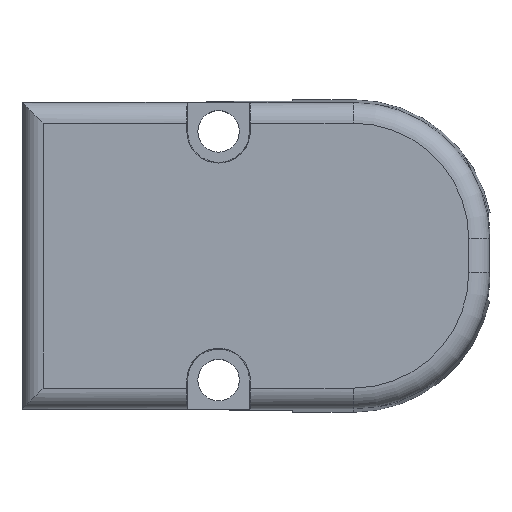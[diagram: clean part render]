
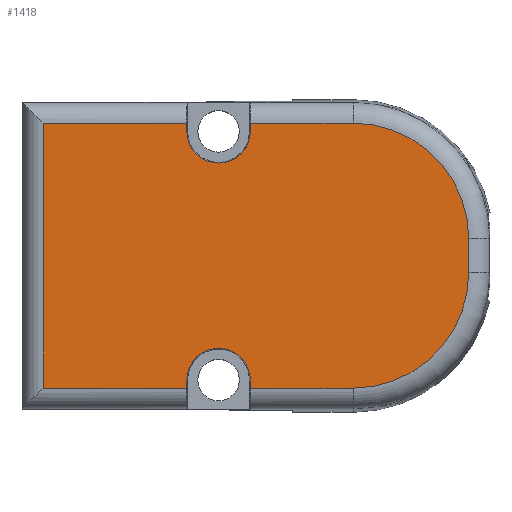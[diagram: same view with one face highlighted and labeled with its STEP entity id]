
A CAD part, top view. The second image highlights one B-rep face of the part: STEP entity #1418.
In plain terms, the highlighted planar face has unit normal (0, 0, 1).
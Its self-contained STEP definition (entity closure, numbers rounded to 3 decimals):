
#115=CIRCLE('',#1546,11.143);
#116=CIRCLE('',#1547,3.063);
#117=CIRCLE('',#1548,3.063);
#118=CIRCLE('',#1549,11.143);
#317=ORIENTED_EDGE('',*,*,#695,.T.);
#318=ORIENTED_EDGE('',*,*,#696,.T.);
#319=ORIENTED_EDGE('',*,*,#697,.T.);
#320=ORIENTED_EDGE('',*,*,#698,.T.);
#321=ORIENTED_EDGE('',*,*,#699,.T.);
#322=ORIENTED_EDGE('',*,*,#700,.T.);
#323=ORIENTED_EDGE('',*,*,#701,.T.);
#324=ORIENTED_EDGE('',*,*,#702,.T.);
#325=ORIENTED_EDGE('',*,*,#703,.F.);
#326=ORIENTED_EDGE('',*,*,#704,.F.);
#327=ORIENTED_EDGE('',*,*,#705,.F.);
#328=ORIENTED_EDGE('',*,*,#706,.T.);
#329=ORIENTED_EDGE('',*,*,#707,.T.);
#330=ORIENTED_EDGE('',*,*,#708,.T.);
#695=EDGE_CURVE('',#875,#876,#115,.T.);
#696=EDGE_CURVE('',#876,#877,#991,.F.);
#697=EDGE_CURVE('',#877,#878,#992,.T.);
#698=EDGE_CURVE('',#878,#879,#116,.F.);
#699=EDGE_CURVE('',#879,#880,#993,.T.);
#700=EDGE_CURVE('',#880,#881,#994,.F.);
#701=EDGE_CURVE('',#881,#882,#995,.F.);
#702=EDGE_CURVE('',#882,#883,#996,.F.);
#703=EDGE_CURVE('',#884,#883,#997,.F.);
#704=EDGE_CURVE('',#885,#884,#117,.T.);
#705=EDGE_CURVE('',#886,#885,#998,.F.);
#706=EDGE_CURVE('',#886,#887,#999,.F.);
#707=EDGE_CURVE('',#887,#888,#118,.T.);
#708=EDGE_CURVE('',#888,#875,#1000,.F.);
#875=VERTEX_POINT('',#2380);
#876=VERTEX_POINT('',#2381);
#877=VERTEX_POINT('',#2383);
#878=VERTEX_POINT('',#2385);
#879=VERTEX_POINT('',#2387);
#880=VERTEX_POINT('',#2389);
#881=VERTEX_POINT('',#2391);
#882=VERTEX_POINT('',#2393);
#883=VERTEX_POINT('',#2395);
#884=VERTEX_POINT('',#2397);
#885=VERTEX_POINT('',#2399);
#886=VERTEX_POINT('',#2401);
#887=VERTEX_POINT('',#2403);
#888=VERTEX_POINT('',#2405);
#991=LINE('',#2382,#1111);
#992=LINE('',#2384,#1112);
#993=LINE('',#2388,#1113);
#994=LINE('',#2390,#1114);
#995=LINE('',#2392,#1115);
#996=LINE('',#2394,#1116);
#997=LINE('',#2396,#1117);
#998=LINE('',#2400,#1118);
#999=LINE('',#2402,#1119);
#1000=LINE('',#2406,#1120);
#1111=VECTOR('',#1839,1000.);
#1112=VECTOR('',#1840,1000.);
#1113=VECTOR('',#1843,1000.);
#1114=VECTOR('',#1844,1000.);
#1115=VECTOR('',#1845,1000.);
#1116=VECTOR('',#1846,1000.);
#1117=VECTOR('',#1847,1000.);
#1118=VECTOR('',#1850,1000.);
#1119=VECTOR('',#1851,1000.);
#1120=VECTOR('',#1854,1000.);
#1179=EDGE_LOOP('',(#317,#318,#319,#320,#321,#322,#323,#324,#325,#326,#327,
#328,#329,#330));
#1273=FACE_BOUND('',#1179,.T.);
#1355=PLANE('',#1545);
#1418=ADVANCED_FACE('',(#1273),#1355,.T.);
#1545=AXIS2_PLACEMENT_3D('',#2378,#1835,#1836);
#1546=AXIS2_PLACEMENT_3D('',#2379,#1837,#1838);
#1547=AXIS2_PLACEMENT_3D('',#2386,#1841,#1842);
#1548=AXIS2_PLACEMENT_3D('',#2398,#1848,#1849);
#1549=AXIS2_PLACEMENT_3D('',#2404,#1852,#1853);
#1835=DIRECTION('',(0.,0.,1.));
#1836=DIRECTION('',(1.,0.,0.));
#1837=DIRECTION('',(0.,0.,1.));
#1838=DIRECTION('',(1.,0.,0.));
#1839=DIRECTION('',(1.,0.,0.));
#1840=DIRECTION('',(0.,-1.,0.));
#1841=DIRECTION('',(0.,0.,1.));
#1842=DIRECTION('',(1.,0.,0.));
#1843=DIRECTION('',(0.,1.,0.));
#1844=DIRECTION('',(1.,0.,0.));
#1845=DIRECTION('',(0.,1.,0.));
#1846=DIRECTION('',(-1.,0.,0.));
#1847=DIRECTION('',(0.,1.,0.));
#1848=DIRECTION('',(0.,0.,1.));
#1849=DIRECTION('',(1.,0.,0.));
#1850=DIRECTION('',(0.,-1.,0.));
#1851=DIRECTION('',(-1.,0.,0.));
#1852=DIRECTION('',(0.,0.,1.));
#1853=DIRECTION('',(1.,0.,0.));
#1854=DIRECTION('',(0.,-1.,0.));
#2378=CARTESIAN_POINT('',(12.4,-1.642,12.5));
#2379=CARTESIAN_POINT('',(12.4,1.642,12.5));
#2380=CARTESIAN_POINT('',(23.543,1.642,12.5));
#2381=CARTESIAN_POINT('',(12.4,12.785,12.5));
#2382=CARTESIAN_POINT('',(2.463,12.785,12.5));
#2383=CARTESIAN_POINT('',(2.463,12.785,12.5));
#2384=CARTESIAN_POINT('',(2.463,-1.642,12.5));
#2385=CARTESIAN_POINT('',(2.463,12.,12.5));
#2386=CARTESIAN_POINT('',(-0.6,12.,12.5));
#2387=CARTESIAN_POINT('',(-3.663,12.,12.5));
#2388=CARTESIAN_POINT('',(-3.663,-1.642,12.5));
#2389=CARTESIAN_POINT('',(-3.663,12.785,12.5));
#2390=CARTESIAN_POINT('',(-19.492,12.785,12.5));
#2391=CARTESIAN_POINT('',(-17.527,12.785,12.5));
#2392=CARTESIAN_POINT('',(-17.527,-14.75,12.5));
#2393=CARTESIAN_POINT('',(-17.527,-12.785,12.5));
#2394=CARTESIAN_POINT('',(-3.663,-12.785,12.5));
#2395=CARTESIAN_POINT('',(-3.663,-12.785,12.5));
#2396=CARTESIAN_POINT('',(-3.663,-1.642,12.5));
#2397=CARTESIAN_POINT('',(-3.663,-12.,12.5));
#2398=CARTESIAN_POINT('',(-0.6,-12.,12.5));
#2399=CARTESIAN_POINT('',(2.463,-12.,12.5));
#2400=CARTESIAN_POINT('',(2.463,-1.642,12.5));
#2401=CARTESIAN_POINT('',(2.463,-12.785,12.5));
#2402=CARTESIAN_POINT('',(12.4,-12.785,12.5));
#2403=CARTESIAN_POINT('',(12.4,-12.785,12.5));
#2404=CARTESIAN_POINT('',(12.4,-1.642,12.5));
#2405=CARTESIAN_POINT('',(23.543,-1.642,12.5));
#2406=CARTESIAN_POINT('',(23.543,1.642,12.5));
